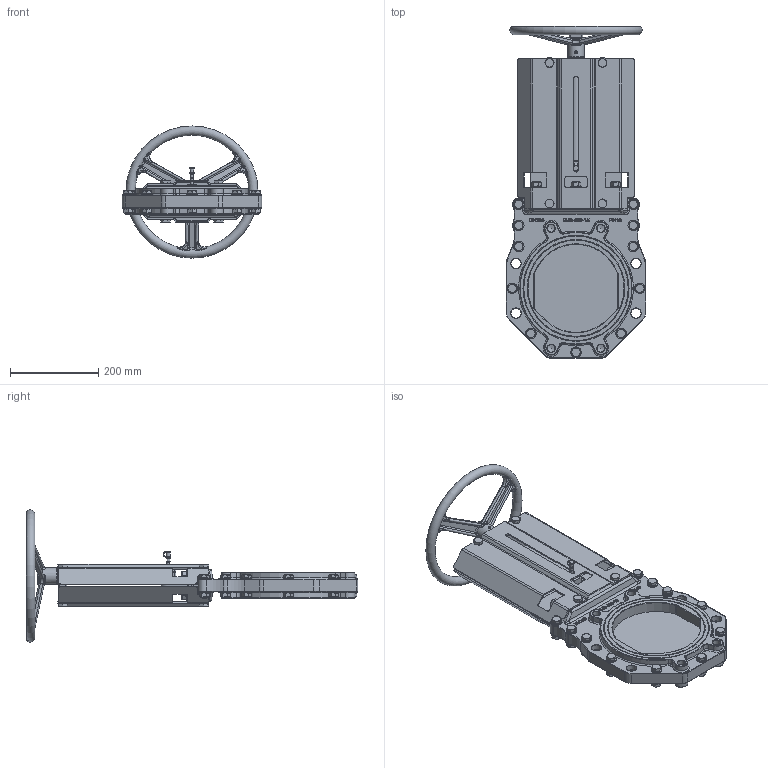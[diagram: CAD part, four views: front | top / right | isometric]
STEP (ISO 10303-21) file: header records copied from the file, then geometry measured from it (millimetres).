
FILE_DESCRIPTION(/* description */ (''),/* implementation_level */ '2;1');
FILE_NAME(/* name */ 'Non-rising stem knife gate valve with handwheel DN200-10.stp',/* time_stamp */ '2025-04-02T09:39:25+08:00',/* author */ (''),/* organization */ (''),/* preprocessor_version */ 'ST-DEVELOPER v15',/* originating_system */ 'SIEMENS PLM Software NX 10.0',/* authorisation */ '');
FILE_SCHEMA (('AP203_CONFIGURATION_CONTROLLED_3D_DESIGN_OF_MECHANICAL_PARTS_AND_ASSEMBLIES_MIM_LF { 1 0 10303 403 2 1 2}'));
Products named in the file (1): Admi271CEB492ezp
Bounding box: 316.54 x 753.7 x 299.98 mm (x, y, z)
Volume: 5051306.8 mm3; surface area: 990795.8 mm2
Topology: 1 solids, 34 shells, 2888 faces, 6994 edges, 4340 vertices
Faces by surface type: plane 1166, cylinder 605, bspline 400, cone 276, extrusion 224, torus 173, sphere 44
Full cylindrical faces by diameter (mm): 6 x3, 8 x1, 9 x1, 9.188 x2, 10 x2, 10.106 x10, 10.5 x2, 11.053 x15, 11.5 x1, 12 x28, 13 x28, 15.4 x2, 17.2 x19, 17.294 x8, 18.5 x1, 20 x5, 23 x8, 24 x29, 26.2 x1, 27 x1, 35 x3, 38 x1
Entity records: 89826 total; most frequent: CARTESIAN_POINT 28157, ORIENTED_EDGE 13054, DIRECTION 11009, EDGE_CURVE 6527, VERTEX_POINT 4247, AXIS2_PLACEMENT_3D 3982, EDGE_LOOP 3522, VECTOR 3045
